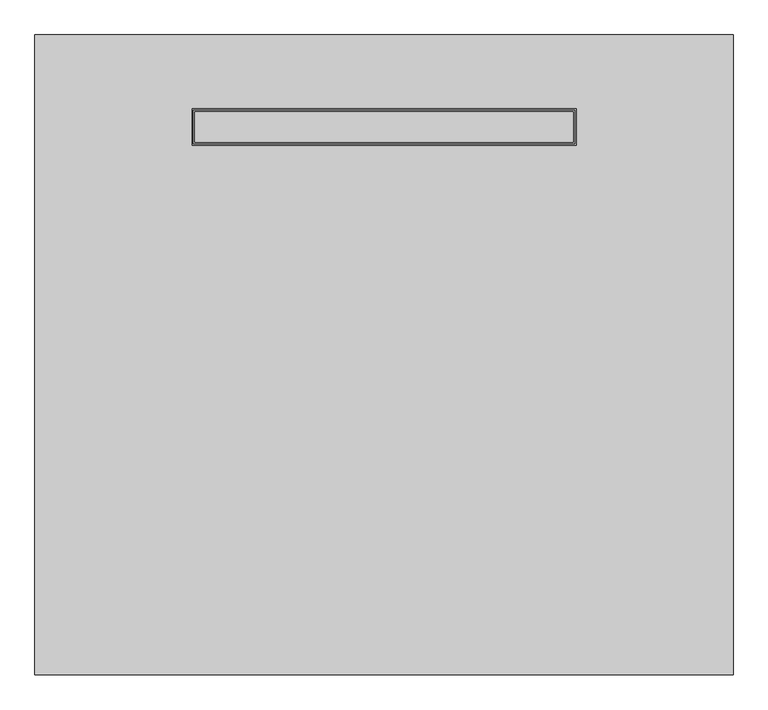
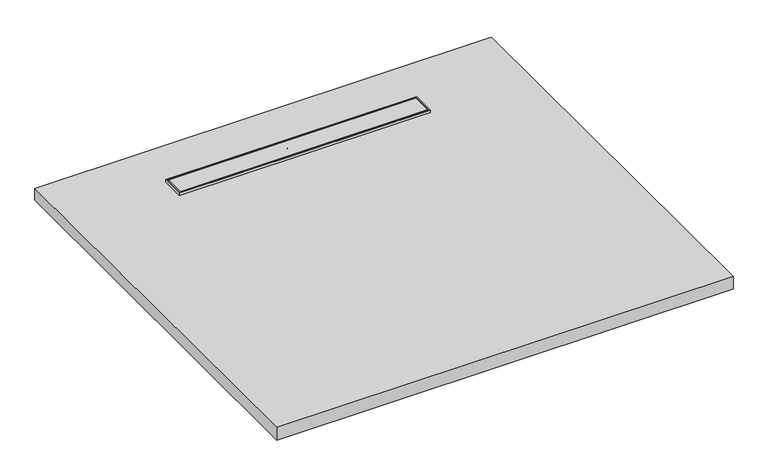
"""IFC4 building model written with IfcOpenShell, lengths in millimetres: sanitary terminal geometry, NLRS_PF_52_UN_Showerboard Compact M2_Easydrain : Compact M2 met M2 ondiep sifonhuis."""

from ifc_helpers import new_model, si_unit, point, frame, frame_2d, origin, place, context, project, spatial, polyline, circle_curve, trimmed, segment, composite_curve, outline, extrude, source, transform, mapped, element, save


def sanitary_terminal_65ee39c2(model_context):
    return source(origin(), model_context, "Body", "SweptSolid", [
        extrude(outline(polyline([(330.0, 10.0), (330.0, -52.0), (-330.0, -52.0), (-330.0, 10.0), (330.0, 10.0)]), holes=[polyline([(327.5, 7.5), (-327.5, 7.5), (-327.5, -49.5), (327.5, -49.5), (327.5, 7.5)])]), frame((0.0, 0.0, -7.0), z_axis=(0.0, 0.0, 1.0), x_axis=(1.0, 0.0, 0.0)), (0.0, 0.0, 1.0), 7.0),
        extrude(outline(polyline([(325.0, 5.0), (325.0, -47.0), (-325.0, -47.0), (-325.0, 5.0), (325.0, 5.0)])), frame((0.0, 0.0, -7.0), z_axis=(0.0, 0.0, 1.0), x_axis=(1.0, 0.0, 0.0)), (0.0, 0.0, 1.0), 7.0),
        extrude(outline(polyline([(137.3, -7.0), (137.3, -40.0), (-962.7, -40.0), (-962.7, -5.0), (137.3, -7.0)])), frame((-600.0, 0.0, 0.0), z_axis=(1.0, 0.0, 0.0), x_axis=(0.0, 1.0, 0.0)), (0.0, 0.0, 1.0), 1200.0),
        extrude(outline(composite_curve([segment(trimmed(circle_curve(frame_2d((0.0, -21.0)), 25.0), [point((-25.0, -21.0))], [point((25.0, -21.0))], False, "CARTESIAN"), True, "CONTINUOUS"), segment(trimmed(circle_curve(frame_2d((0.0, -21.0)), 25.0), [point((25.0, -21.0))], [point((-25.0, -21.0))], False, "CARTESIAN"), True, "CONTINUOUS")], self_intersect=False)), frame((0.0, 0.0, -31.5), z_axis=(0.0, 0.0, 1.0), x_axis=(1.0, 0.0, 0.0)), (0.0, 0.0, 1.0), 24.5),
    ])


if __name__ == "__main__":
    model = new_model("IFC4")
    model_context = context("Model", 3, world=origin())
    ifc_project = project(units=[si_unit("LENGTHUNIT", "METRE", prefix="MILLI")], contexts=[model_context])
    site = spatial("IfcSite", under=ifc_project)
    building = spatial("IfcBuilding", under=site)
    placement = place(None, origin())
    sanitary_terminal_shape = sanitary_terminal_65ee39c2(model_context)
    element("IfcSanitaryTerminal", 1, ObjectType="NLRS_PF_52_UN_Showerboard Compact M2_Easydrain : Compact M2 met M2 ondiep sifonhuis", at=placement, inside=building, context=model_context, shape_type="MappedRepresentation", body=[
        mapped(sanitary_terminal_shape, transform((0.0, 0.0, 0.0), x_axis=(1.0, 0.0, 0.0), y_axis=(0.0, 1.0, 0.0), z_axis=(0.0, 0.0, 1.0))),
    ])
    save(model, "model.ifc")
